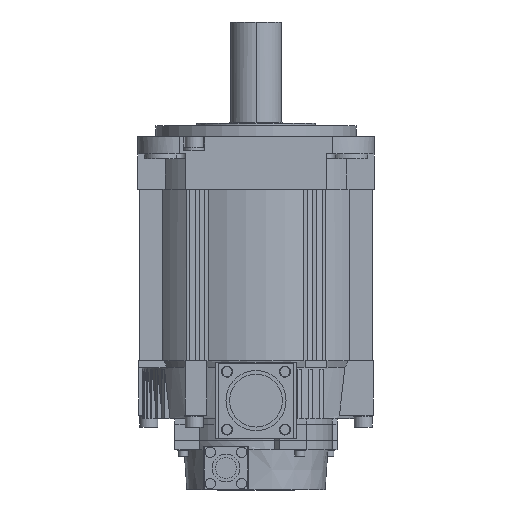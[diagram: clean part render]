
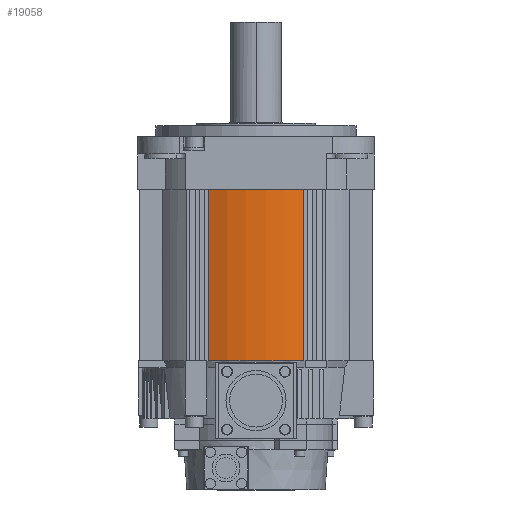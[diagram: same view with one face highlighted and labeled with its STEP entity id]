
A CAD part, front view. The second image highlights one B-rep face of the part: STEP entity #19058.
In plain terms, the highlighted cylindrical face has radius 64 mm (diameter 128 mm), a partial arc.
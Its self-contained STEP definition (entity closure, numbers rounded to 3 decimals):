
#1 = EDGE_CURVE ( 'NONE', #7, #8, #22113, .T. ) ;
#7 = VERTEX_POINT ( 'NONE', #22160 ) ;
#8 = VERTEX_POINT ( 'NONE', #22159 ) ;
#5035 = CARTESIAN_POINT ( 'NONE',  ( 26.3, -58.346, -29. ) ) ;
#5087 = DIRECTION ( 'NONE',  ( 0., 0., -1. ) ) ;
#5088 = VECTOR ( 'NONE', #5087, 1000. ) ;
#5089 = CARTESIAN_POINT ( 'NONE',  ( 26.3, -58.346, -304.019 ) ) ;
#5090 = LINE ( 'NONE', #5089, #5088 ) ;
#7157 = CARTESIAN_POINT ( 'NONE',  ( -26.3, -58.346, -29. ) ) ;
#7163 = DIRECTION ( 'NONE',  ( 0., 0., 1. ) ) ;
#7164 = VECTOR ( 'NONE', #7163, 1000. ) ;
#7165 = CARTESIAN_POINT ( 'NONE',  ( -26.3, -58.346, -304.019 ) ) ;
#7166 = LINE ( 'NONE', #7165, #7164 ) ;
#9361 = DIRECTION ( 'NONE',  ( 1., 0., 0. ) ) ;
#9362 = DIRECTION ( 'NONE',  ( 0., 0., 1. ) ) ;
#9363 = CARTESIAN_POINT ( 'NONE',  ( 0., 0., -304.019 ) ) ;
#9364 = AXIS2_PLACEMENT_3D ( 'NONE', #9363, #9362, #9361 ) ;
#9365 = CYLINDRICAL_SURFACE ( 'NONE', #9364, 64. ) ;
#9367 = FACE_OUTER_BOUND ( 'NONE', #18793, .T. ) ;
#14143 = DIRECTION ( 'NONE',  ( 1., 0., 0. ) ) ;
#14144 = DIRECTION ( 'NONE',  ( 0., 0., 1. ) ) ;
#14145 = CARTESIAN_POINT ( 'NONE',  ( 0., 0., -29. ) ) ;
#14146 = AXIS2_PLACEMENT_3D ( 'NONE', #14145, #14144, #14143 ) ;
#14147 = CIRCLE ( 'NONE', #14146, 64. ) ;
#16642 = ORIENTED_EDGE ( 'NONE', *, *, #1, .F. ) ;
#16825 = ORIENTED_EDGE ( 'NONE', *, *, #16882, .F. ) ;
#16839 = VERTEX_POINT ( 'NONE', #5035 ) ;
#16882 = EDGE_CURVE ( 'NONE', #16839, #7, #5090, .T. ) ;
#18116 = EDGE_CURVE ( 'NONE', #8, #18122, #7166, .T. ) ;
#18122 = VERTEX_POINT ( 'NONE', #7157 ) ;
#18172 = ORIENTED_EDGE ( 'NONE', *, *, #18116, .F. ) ;
#18793 = EDGE_LOOP ( 'NONE', ( #18172, #16642, #16825, #22305 ) ) ;
#19058 = ADVANCED_FACE ( 'NONE', ( #9367 ), #9365, .T. ) ;
#22109 = DIRECTION ( 'NONE',  ( 1., 0., 0. ) ) ;
#22110 = DIRECTION ( 'NONE',  ( 0., 0., -1. ) ) ;
#22111 = CARTESIAN_POINT ( 'NONE',  ( 0., 0., -123. ) ) ;
#22112 = AXIS2_PLACEMENT_3D ( 'NONE', #22111, #22110, #22109 ) ;
#22113 = CIRCLE ( 'NONE', #22112, 64. ) ;
#22159 = CARTESIAN_POINT ( 'NONE',  ( -26.3, -58.346, -123. ) ) ;
#22160 = CARTESIAN_POINT ( 'NONE',  ( 26.3, -58.346, -123. ) ) ;
#22305 = ORIENTED_EDGE ( 'NONE', *, *, #22539, .F. ) ;
#22539 = EDGE_CURVE ( 'NONE', #18122, #16839, #14147, .T. ) ;
